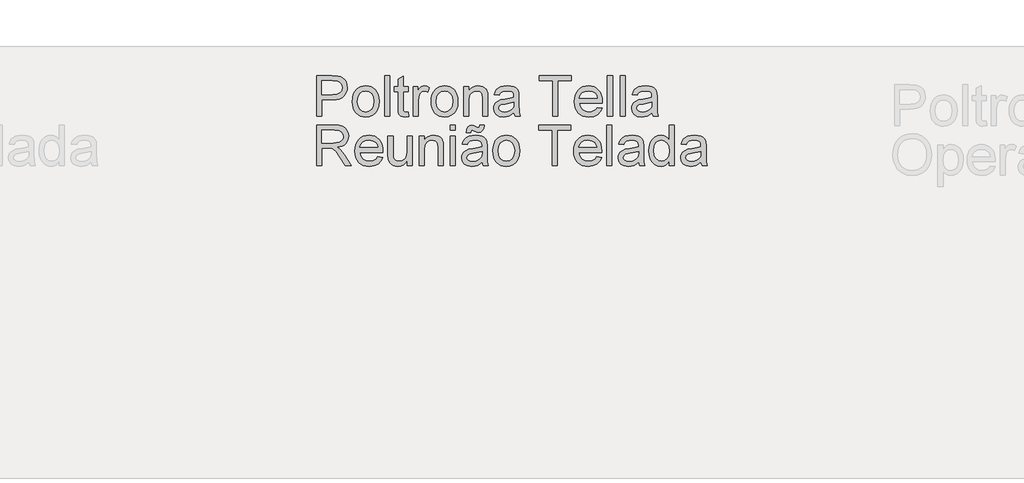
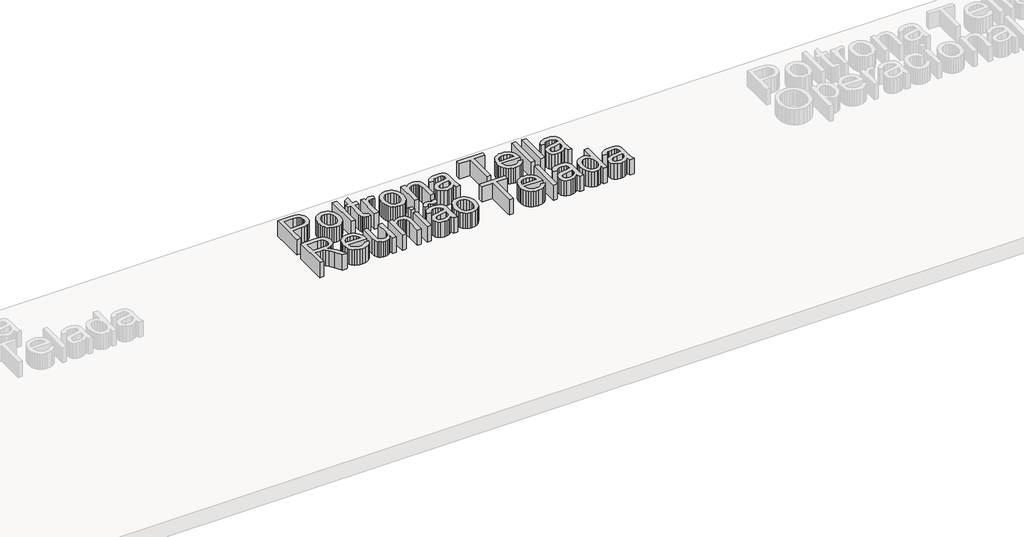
# One storey, part 3 of 5: 1 proxy.
"""IFC4 building model written with IfcOpenShell, lengths in millimetres."""

from ifc_helpers import new_model, si_unit, origin, origin_with_axes, place, context, project, spatial, polyline, outline, extrude, element, save

model = new_model("IFC4")

# Units and contexts
model_context = context("Model", 3, world=origin())
ifc_project = project(units=[si_unit("LENGTHUNIT", "METRE", prefix="MILLI")], contexts=[model_context])

# Site, building, storey
site = spatial("IfcSite", under=ifc_project)
building = spatial("IfcBuilding", under=site)
storey = spatial("IfcBuildingStorey", under=building, Name="Nível 1", Elevation=0.0)

# Proxy
placement = place(None, origin())
element("IfcBuildingElementProxy", 1, Name="300 mm", ObjectType="300 mm", at=placement, inside=storey, context=model_context, shape_type="SweptSolid", body=[
    extrude(outline(polyline([(6.5554391, 6303.2273262), (6.5554391, 6604.5962566), (118.2444128, 6604.5962566), (163.273169, 6601.7267771), (183.3503289, 6596.364897), (199.8774276, 6587.6368966), (213.1855587, 6575.1473029), (223.6058162, 6558.5006426), (230.3380568, 6538.8649411), (232.5821369, 6517.4082238), (231.066923, 6498.9083579), (226.5212811, 6481.8892171), (218.9452112, 6466.3508014), (208.3387134, 6452.2931106), (193.7774842, 6440.6404484), (174.33722, 6432.3171183), (150.0179209, 6427.3231202), (120.8195868, 6425.6584542), (44.2265554, 6425.6584542), (44.2265554, 6303.2273262), (6.5554391, 6303.2273262)]), holes=[polyline([(44.2265554, 6463.3295705), (123.0268788, 6463.3295705), (156.4305639, 6466.7876612), (178.5034836, 6477.1619335), (190.8091364, 6493.8085938), (194.9110206, 6516.0838486), (192.4921965, 6533.0064204), (185.2357241, 6547.2802418), (174.0429144, 6558.022396), (159.8150783, 6564.3499663), (122.143962, 6566.9251403), (44.2265554, 6566.9251403), (44.2265554, 6463.3295705)])]), origin_with_axes(), (0.0, 0.0, 1.0), 150.0),
    extrude(outline(polyline([(270.2532532, 6413.8862303), (272.2903998, 6442.5488363), (278.4018394, 6467.2475137), (288.5875722, 6487.9822627), (302.847598, 6504.7530831), (317.2041929, 6515.4722448), (333.0507098, 6523.1287888), (350.3871488, 6527.7227152), (369.2135099, 6529.254024), (389.9965434, 6527.3893221), (408.7884156, 6521.7952165), (425.5891264, 6512.4717072), (440.398676, 6499.4187942), (452.4858988, 6483.0779358), (461.1196294, 6463.8905905), (466.2998677, 6441.8567583), (468.0266138, 6416.9764391), (464.9731933, 6378.9190467), (455.8129316, 6349.9483396), (440.8125432, 6328.2524989), (420.2387427, 6312.0197058), (395.8021811, 6301.8937539), (369.2135099, 6298.5184366), (348.1269738, 6300.3762407), (329.1603577, 6305.9496529), (312.3136616, 6315.2386733), (297.5868855, 6328.2433018), (285.6284214, 6344.7428093), (277.0866613, 6364.5164666), (271.9616053, 6387.5642736), (270.2532532, 6413.8862303)]), holes=[polyline([(307.9243695, 6413.9598067), (312.2837712, 6379.8663428), (325.3619761, 6355.5769341), (345.0436629, 6341.0363982), (369.2135099, 6336.1895529), (393.2729924, 6341.0639894), (412.917891, 6355.6872987), (425.9960959, 6380.2986042), (430.3554975, 6415.1370291), (425.9685047, 6448.2372116), (412.8075264, 6472.1955265), (393.1350367, 6486.7360624), (369.2135099, 6491.5829077), (345.0436629, 6486.7544565), (325.3619761, 6472.2691029), (312.2837712, 6448.0348765), (307.9243695, 6413.9598067)])]), origin_with_axes(), (0.0, 0.0, 1.0), 150.0),
    extrude(outline(polyline([(510.4066197, 6303.2273262), (510.4066197, 6604.5962566), (548.077736, 6604.5962566), (548.077736, 6303.2273262), (510.4066197, 6303.2273262)])), origin_with_axes(), (0.0, 0.0, 1.0), 150.0),
    extrude(outline(polyline([(684.6355326, 6334.6444486), (689.3444221, 6302.1236802), (661.1646613, 6298.5184366), (643.0832612, 6300.0819351), (629.6003861, 6304.7724305), (620.0722424, 6312.0013117), (613.8550367, 6321.1799675), (610.4337342, 6336.943711), (609.2933, 6363.9278554), (609.2933, 6486.8740182), (581.0399628, 6486.8740182), (581.0399628, 6524.5451345), (609.2933, 6524.5451345), (609.2933, 6578.3294822), (646.9644163, 6600.4759783), (646.9644163, 6524.5451345), (684.6355326, 6524.5451345), (684.6355326, 6486.8740182), (646.9644163, 6486.8740182), (646.9644163, 6365.0315014), (648.9509791, 6345.607332), (655.388914, 6338.7279387), (668.2279956, 6336.1895529), (684.6355326, 6334.6444486)])), origin_with_axes(), (0.0, 0.0, 1.0), 150.0),
    extrude(outline(polyline([(722.3066489, 6303.2273262), (722.3066489, 6524.5451345), (755.2688757, 6524.5451345), (755.2688757, 6491.8036369), (767.4457697, 6510.7863478), (778.6661706, 6521.9699605), (789.9233596, 6527.4330081), (802.2106183, 6529.254024), (820.9726, 6526.3477562), (840.0288874, 6517.628953), (827.4473231, 6483.8573858), (814.2035713, 6489.6515272), (800.9598195, 6491.5829077), (789.7118275, 6489.7251036), (779.659452, 6484.1516914), (771.5384569, 6475.2857353), (766.0846063, 6463.5502997), (761.5044755, 6442.5074495), (759.9777652, 6419.551613), (759.9777652, 6303.2273262), (722.3066489, 6303.2273262)])), origin_with_axes(), (0.0, 0.0, 1.0), 150.0),
    extrude(outline(polyline([(854.155556, 6413.8862303), (856.1927025, 6442.5488363), (862.3041422, 6467.2475137), (872.4898749, 6487.9822627), (886.7499008, 6504.7530831), (901.1064956, 6515.4722448), (916.9530126, 6523.1287888), (934.2894516, 6527.7227152), (953.1158127, 6529.254024), (973.8988461, 6527.3893221), (992.6907183, 6521.7952165), (1009.4914292, 6512.4717072), (1024.3009787, 6499.4187942), (1036.3882016, 6483.0779358), (1045.0219321, 6463.8905905), (1050.2021705, 6441.8567583), (1051.9289166, 6416.9764391), (1048.875496, 6378.9190467), (1039.7152343, 6349.9483396), (1024.714846, 6328.2524989), (1004.1410454, 6312.0197058), (979.7044839, 6301.8937539), (953.1158127, 6298.5184366), (932.0292766, 6300.3762407), (913.0626605, 6305.9496529), (896.2159643, 6315.2386733), (881.4891882, 6328.2433018), (869.5307241, 6344.7428093), (860.988964, 6364.5164666), (855.863908, 6387.5642736), (854.155556, 6413.8862303)]), holes=[polyline([(891.8266723, 6413.9598067), (896.1860739, 6379.8663428), (909.2642789, 6355.5769341), (928.9459656, 6341.0363982), (953.1158127, 6336.1895529), (977.1752952, 6341.0639894), (996.8201937, 6355.6872987), (1009.8983986, 6380.2986042), (1014.2578003, 6415.1370291), (1009.8708075, 6448.2372116), (996.7098291, 6472.1955265), (977.0373394, 6486.7360624), (953.1158127, 6491.5829077), (928.9459656, 6486.7544565), (909.2642789, 6472.2691029), (896.1860739, 6448.0348765), (891.8266723, 6413.9598067)])]), origin_with_axes(), (0.0, 0.0, 1.0), 150.0),
    extrude(outline(polyline([(1094.3089224, 6303.2273262), (1094.3089224, 6524.5451345), (1131.9800387, 6524.5451345), (1131.9800387, 6493.6430469), (1145.0674407, 6509.2228494), (1160.785199, 6520.3512797), (1179.1333135, 6527.0283379), (1200.1117842, 6529.254024), (1218.680628, 6527.4605993), (1235.6859732, 6522.0803251), (1249.8678241, 6513.7845861), (1259.9661849, 6503.2447669), (1271.2601621, 6475.5432527), (1273.2467249, 6439.1229352), (1273.2467249, 6303.2273262), (1235.5756086, 6303.2273262), (1235.5756086, 6434.0461636), (1231.234601, 6467.3762724), (1225.2289275, 6477.2998892), (1215.8939218, 6484.99782), (1203.9285599, 6489.9366358), (1190.0318176, 6491.5829077), (1167.9680949, 6487.8856936), (1149.1601279, 6476.7940515), (1141.6438389, 6467.7395559), (1136.275061, 6455.3649253), (1131.9800387, 6420.655259), (1131.9800387, 6303.2273262), (1094.3089224, 6303.2273262)])), origin_with_axes(), (0.0, 0.0, 1.0), 150.0),
    extrude(outline(polyline([(1466.311196, 6331.4806634), (1448.3125693, 6316.0480137), (1429.7805138, 6305.9496529), (1410.2919651, 6300.3762407), (1389.423859, 6298.5184366), (1357.9423572, 6302.9882029), (1334.7198063, 6316.3975016), (1320.3999996, 6336.75977), (1315.6267307, 6362.0884454), (1317.4293525, 6377.7050361), (1322.8372178, 6391.886887), (1331.1789421, 6404.0269928), (1341.7831406, 6413.5183483), (1368.1602796, 6425.8791834), (1400.7546244, 6431.5445661), (1439.2718693, 6437.5042544), (1466.0904668, 6444.4940123), (1466.311196, 6452.8817218), (1463.7176279, 6469.693929), (1455.9369237, 6480.6936006), (1438.5361053, 6488.8605809), (1414.2926818, 6491.5829077), (1391.8518801, 6489.7710889), (1376.1801071, 6484.3356324), (1365.4931352, 6474.2832569), (1358.0067366, 6458.6206809), (1320.3356203, 6463.3295705), (1326.8747227, 6483.9309622), (1336.6327927, 6500.11777), (1350.520338, 6512.4969991), (1369.4478666, 6521.6756549), (1392.5968412, 6527.3594317), (1419.1487242, 6529.254024), (1444.6153553, 6527.5801609), (1464.8028798, 6522.5585717), (1480.0239973, 6515.0077937), (1490.5914076, 6505.7463645), (1497.5995596, 6494.2960374), (1502.1429023, 6480.1785658), (1503.9823123, 6447.2163391), (1503.9823123, 6400.3481729), (1505.8952986, 6334.9019659), (1513.4000913, 6303.2273262), (1475.728975, 6303.2273262), (1466.311196, 6331.4806634)]), holes=[polyline([(1466.311196, 6406.822896), (1405.5370904, 6395.2714014), (1373.1266866, 6389.1645602), (1358.448195, 6379.2317464), (1353.297847, 6364.7371958), (1356.1029472, 6353.535189), (1364.5182479, 6344.3565332), (1378.359808, 6338.231298), (1397.4436865, 6336.1895529), (1417.6771962, 6338.4428302), (1435.5562612, 6345.2026618), (1450.0508118, 6355.1630668), (1460.1307784, 6367.0180641), (1464.6005447, 6379.2317464), (1466.0904668, 6396.1543181), (1466.311196, 6406.822896)])]), origin_with_axes(), (0.0, 0.0, 1.0), 150.0),
    extrude(outline(polyline([(1753.5534578, 6303.2273262), (1753.5534578, 6566.9251403), (1654.6667775, 6566.9251403), (1654.6667775, 6604.5962566), (1890.1112544, 6604.5962566), (1890.1112544, 6566.9251403), (1791.2245741, 6566.9251403), (1791.2245741, 6303.2273262), (1753.5534578, 6303.2273262)])), origin_with_axes(), (0.0, 0.0, 1.0), 150.0),
    extrude(outline(polyline([(2082.7342671, 6369.1517797), (2119.6696194, 6364.4428902), (2106.3614882, 6336.6126172), (2085.1255, 6315.8088904), (2056.4399015, 6302.8410501), (2020.7829391, 6298.5184366), (1997.4086368, 6300.3831385), (1976.5819174, 6305.9772441), (1958.3027807, 6315.3007534), (1942.5712269, 6328.3536664), (1929.9206848, 6344.7726997), (1920.8845833, 6364.1945698), (1915.4629224, 6386.6192767), (1913.6557021, 6412.0468203), (1915.4813165, 6438.3365874), (1920.9581597, 6461.5085546), (1930.0862317, 6481.5627219), (1942.8655325, 6498.4990892), (1958.5556996, 6511.9543732), (1976.4163705, 6521.5652903), (1996.4475451, 6527.3318406), (2018.6492235, 6529.254024), (2040.1358313, 6527.3364391), (2059.5668984, 6521.5836844), (2076.9424249, 6511.9957599), (2092.2624107, 6498.5726656), (2104.7680993, 6481.6730864), (2113.700734, 6461.6557074), (2119.0603148, 6438.5205284), (2120.8468418, 6412.2675495), (2120.6261126, 6402.1140065), (1951.3268184, 6402.1140065), (1957.8475268, 6373.9158515), (1972.9950679, 6353.1857011), (1994.8564555, 6340.43859), (2021.5187031, 6336.1895529), (2041.5682718, 6338.1577216), (2058.4540554, 6344.0622276), (2072.1760538, 6354.270953), (2082.7342671, 6369.1517797)]), holes=[polyline([(1951.3268184, 6439.7851228), (2083.1757255, 6439.7851228), (2078.0805598, 6459.6875387), (2068.0925637, 6473.9245719), (2046.1300086, 6487.1683238), (2018.5020707, 6491.5829077), (1993.109016, 6488.0604376), (1972.1121511, 6477.4930273), (1957.516433, 6461.0211109), (1951.3268184, 6439.7851228)])]), origin_with_axes(), (0.0, 0.0, 1.0), 150.0),
    extrude(outline(polyline([(2158.5179581, 6303.2273262), (2158.5179581, 6604.5962566), (2196.1890744, 6604.5962566), (2196.1890744, 6303.2273262), (2158.5179581, 6303.2273262)])), origin_with_axes(), (0.0, 0.0, 1.0), 150.0),
    extrude(outline(polyline([(2252.6957488, 6303.2273262), (2252.6957488, 6604.5962566), (2290.3668651, 6604.5962566), (2290.3668651, 6303.2273262), (2252.6957488, 6303.2273262)])), origin_with_axes(), (0.0, 0.0, 1.0), 150.0),
    extrude(outline(polyline([(2488.1402258, 6331.4806634), (2470.1415991, 6316.0480137), (2451.6095436, 6305.9496529), (2432.1209949, 6300.3762407), (2411.2528888, 6298.5184366), (2379.771387, 6302.9882029), (2356.5488361, 6316.3975016), (2342.2290294, 6336.75977), (2337.4557605, 6362.0884454), (2339.2583823, 6377.7050361), (2344.6662476, 6391.886887), (2353.0079719, 6404.0269928), (2363.6121704, 6413.5183483), (2389.9893094, 6425.8791834), (2422.5836542, 6431.5445661), (2461.1008991, 6437.5042544), (2487.9194966, 6444.4940123), (2488.1402258, 6452.8817218), (2485.5466577, 6469.693929), (2477.7659535, 6480.6936006), (2460.3651351, 6488.8605809), (2436.1217116, 6491.5829077), (2413.6809099, 6489.7710889), (2398.0091369, 6484.3356324), (2387.322165, 6474.2832569), (2379.8357664, 6458.6206809), (2342.1646501, 6463.3295705), (2348.7037525, 6483.9309622), (2358.4618225, 6500.11777), (2372.3493678, 6512.4969991), (2391.2768964, 6521.6756549), (2414.425871, 6527.3594317), (2440.977754, 6529.254024), (2466.4443851, 6527.5801609), (2486.6319096, 6522.5585717), (2501.8530271, 6515.0077937), (2512.4204374, 6505.7463645), (2519.4285894, 6494.2960374), (2523.9719321, 6480.1785658), (2525.8113421, 6447.2163391), (2525.8113421, 6400.3481729), (2527.7243284, 6334.9019659), (2535.2291211, 6303.2273262), (2497.5580048, 6303.2273262), (2488.1402258, 6331.4806634)]), holes=[polyline([(2488.1402258, 6406.822896), (2427.3661202, 6395.2714014), (2394.9557164, 6389.1645602), (2380.2772248, 6379.2317464), (2375.1268768, 6364.7371958), (2377.9319771, 6353.535189), (2386.3472777, 6344.3565332), (2400.1888378, 6338.231298), (2419.2727163, 6336.1895529), (2439.506226, 6338.4428302), (2457.385291, 6345.2026618), (2471.8798416, 6355.1630668), (2481.9598082, 6367.0180641), (2486.4295745, 6379.2317464), (2487.9194966, 6396.1543181), (2488.1402258, 6406.822896)])]), origin_with_axes(), (0.0, 0.0, 1.0), 150.0),
    extrude(outline(polyline([(6.5554391, 5937.3028726), (6.5554391, 6238.6718031), (136.4177834, 6238.6718031), (171.3205877, 6236.6392551), (196.7136424, 6230.541611), (215.2732891, 6219.2844219), (229.6758692, 6201.773239), (238.9189043, 6180.0590042), (241.999916, 6156.1926598), (236.8955533, 6126.5045827), (221.5824653, 6101.8932773), (209.9826861, 6091.8638944), (195.6007994, 6083.8486654), (158.4907031, 6073.8606692), (179.9014352, 6057.7474378), (210.4356408, 6018.9726756), (260.6883214, 5937.3028726), (216.9103639, 5937.3028726), (177.6941432, 5999.7692354), (149.3672296, 6041.1191717), (129.4648137, 6060.6537056), (111.5489605, 6067.8274045), (89.69677, 6069.1517797), (44.2265554, 6069.1517797), (44.2265554, 5937.3028726), (6.5554391, 5937.3028726)]), holes=[polyline([(44.2265554, 6106.822896), (128.5451087, 6106.822896), (152.760941, 6108.1564682), (171.5505139, 6112.1571849), (185.6955766, 6119.0917605), (195.9778784, 6129.2269095), (202.2410694, 6141.486577), (204.3287997, 6154.7947082), (200.3464771, 6173.1704138), (188.3995093, 6187.9776641), (167.8441028, 6197.7449311), (138.0364642, 6201.0006868), (44.2265554, 6201.0006868), (44.2265554, 6106.822896)])]), origin_with_axes(), (0.0, 0.0, 1.0), 150.0),
    extrude(outline(polyline([(458.1673764, 6003.2273262), (495.1027287, 5998.5184366), (481.7945975, 5970.6881637), (460.5586093, 5949.8844369), (431.8730108, 5936.9165965), (396.2160484, 5932.5939831), (372.8417461, 5934.458685), (352.0150267, 5940.0527905), (333.73589, 5949.3762999), (318.0043362, 5962.4292129), (305.3537941, 5978.8482462), (296.3176926, 5998.2701163), (290.8960317, 6020.6948231), (289.0888114, 6046.1223668), (290.9144258, 6072.4121339), (296.391269, 6095.5841011), (305.519341, 6115.6382683), (318.2986418, 6132.5746357), (333.9888089, 6146.0299196), (351.8494798, 6155.6408368), (371.8806544, 6161.407387), (394.0823328, 6163.3295705), (415.5689406, 6161.4119856), (435.0000077, 6155.6592309), (452.3755342, 6146.0713064), (467.69552, 6132.6482121), (480.2012086, 6115.7486329), (489.1338433, 6095.7312539), (494.4934241, 6072.5960749), (496.2799511, 6046.343096), (496.0592219, 6036.1895529), (326.7599277, 6036.1895529), (333.2806361, 6007.991398), (348.4281772, 5987.2612476), (370.2895648, 5974.5141364), (396.9518124, 5970.2650994), (417.0013811, 5972.2332681), (433.8871647, 5978.1377741), (447.6091631, 5988.3464995), (458.1673764, 6003.2273262)]), holes=[polyline([(326.7599277, 6073.8606692), (458.6088348, 6073.8606692), (453.5136691, 6093.7630852), (443.525673, 6108.0001184), (421.5631179, 6121.2438702), (393.93518, 6125.6584542), (368.5421253, 6122.1359841), (347.5452604, 6111.5685737), (332.9495423, 6095.0966574), (326.7599277, 6073.8606692)])]), origin_with_axes(), (0.0, 0.0, 1.0), 150.0),
    extrude(outline(polyline([(675.2177535, 5937.3028726), (675.2177535, 5975.3418709), (661.5877256, 5956.63967), (645.7136175, 5943.280955), (627.5954293, 5935.2657261), (607.2331608, 5932.5939831), (588.8850463, 5934.4701813), (571.8061247, 5940.0987758), (557.477121, 5948.5600617), (547.3787602, 5958.9343339), (536.1583593, 5986.6726364), (533.9510674, 6021.6950023), (533.9510674, 6158.6206809), (571.6221837, 6158.6206809), (571.6221837, 6039.4269145), (573.9030521, 6001.0200342), (579.3936908, 5988.2085437), (588.8022729, 5978.4688679), (601.5033987, 5972.3160415), (616.8716691, 5970.2650994), (633.1228562, 5972.3620268), (648.3255797, 5978.6528089), (660.8611587, 5988.5580316), (669.1109124, 6001.4982808), (673.6910432, 6019.2209959), (675.2177535, 6043.4736164), (675.2177535, 6158.6206809), (712.8888698, 6158.6206809), (712.8888698, 5937.3028726), (675.2177535, 5937.3028726)])), origin_with_axes(), (0.0, 0.0, 1.0), 150.0),
    extrude(outline(polyline([(764.6866548, 5937.3028726), (764.6866548, 6158.6206809), (802.3577711, 6158.6206809), (802.3577711, 6127.7185933), (815.445173, 6143.2983958), (831.1629313, 6154.4268262), (849.5110458, 6161.1038844), (870.4895166, 6163.3295705), (889.0583603, 6161.5361457), (906.0637055, 6156.1558716), (920.2455564, 6147.8601326), (930.3439172, 6137.3203134), (941.6378944, 6109.6187992), (943.6244572, 6073.1984816), (943.6244572, 5937.3028726), (905.9533409, 5937.3028726), (905.9533409, 6068.1217101), (901.6123334, 6101.4518189), (895.6066598, 6111.3754357), (886.2716542, 6119.0733664), (874.3062923, 6124.0121822), (860.4095499, 6125.6584542), (838.3458272, 6121.9612401), (819.5378602, 6110.869598), (812.0215712, 6101.8151023), (806.6527934, 6089.4404717), (802.3577711, 6054.7308055), (802.3577711, 5937.3028726), (764.6866548, 5937.3028726)])), origin_with_axes(), (0.0, 0.0, 1.0), 150.0),
    extrude(outline(polyline([(995.4222421, 6201.0006868), (995.4222421, 6238.6718031), (1033.0933584, 6238.6718031), (1033.0933584, 6201.0006868), (995.4222421, 6201.0006868)])), origin_with_axes(), (0.0, 0.0, 1.0), 150.0),
    extrude(outline(polyline([(995.4222421, 5937.3028726), (995.4222421, 6158.6206809), (1033.0933584, 6158.6206809), (1033.0933584, 5937.3028726), (995.4222421, 5937.3028726)])), origin_with_axes(), (0.0, 0.0, 1.0), 150.0),
    extrude(outline(polyline([(1113.1444806, 6182.1651286), (1115.995566, 6205.3233002), (1124.843128, 6223.2943357), (1138.1788504, 6234.8274362), (1154.7887224, 6238.6718031), (1168.6946619, 6235.6367766), (1184.955046, 6226.5316972), (1200.1853606, 6219.8362449), (1208.1683999, 6223.6254295), (1212.0311609, 6238.6718031), (1244.9933877, 6238.6718031), (1241.7100408, 6213.950133), (1233.0372228, 6196.2917972), (1220.1337618, 6185.6967958), (1204.1584862, 6182.1651286), (1190.1605763, 6185.0346082), (1174.3600446, 6193.6430469), (1158.4675424, 6201.0006868), (1149.4912217, 6196.2182208), (1146.1067074, 6182.1651286), (1113.1444806, 6182.1651286)])), origin_with_axes(), (0.0, 0.0, 1.0), 150.0),
    extrude(outline(polyline([(1230.866719, 5965.5562099), (1212.8680924, 5950.1235602), (1194.3360369, 5940.0251994), (1174.8474882, 5934.4517872), (1153.979382, 5932.5939831), (1122.4978803, 5937.0637493), (1099.2753294, 5950.4730481), (1084.9555227, 5970.8353165), (1080.1822538, 5996.1639919), (1081.9848756, 6011.7805826), (1087.3927409, 6025.9624335), (1095.7344652, 6038.1025393), (1106.3386637, 6047.5938948), (1132.7158027, 6059.9547298), (1165.3101475, 6065.6201125), (1203.8273924, 6071.5798009), (1230.6459898, 6078.5695588), (1230.866719, 6086.9572683), (1228.273151, 6103.7694754), (1220.4924468, 6114.7691471), (1203.0916284, 6122.9361274), (1178.8482049, 6125.6584542), (1156.4074032, 6123.8466353), (1140.7356302, 6118.4111789), (1130.0486583, 6108.3588033), (1122.5622597, 6092.6962274), (1084.8911434, 6097.4051169), (1091.4302458, 6118.0065087), (1101.1883157, 6134.1933164), (1115.0758611, 6146.5725456), (1134.0033897, 6155.7512014), (1157.1523643, 6161.4349782), (1183.7042473, 6163.3295705), (1209.1708784, 6161.6557074), (1229.3584029, 6156.6341182), (1244.5795204, 6149.0833402), (1255.1469307, 6139.821911), (1262.1550827, 6128.3715839), (1266.6984254, 6114.2541123), (1268.5378353, 6081.2918855), (1268.5378353, 6034.4237194), (1270.4508217, 5968.9775124), (1277.9556144, 5937.3028726), (1240.2844981, 5937.3028726), (1230.866719, 5965.5562099)]), holes=[polyline([(1230.866719, 6040.8984425), (1170.0926134, 6029.3469478), (1137.6822097, 6023.2401067), (1123.0037181, 6013.3072928), (1117.8533701, 5998.8127422), (1120.6584703, 5987.6107355), (1129.073771, 5978.4320797), (1142.915331, 5972.3068445), (1161.9992095, 5970.2650994), (1182.2327193, 5972.5183766), (1200.1117842, 5979.2782083), (1214.6063349, 5989.2386133), (1224.6863015, 6001.0936106), (1229.1560678, 6013.3072928), (1230.6459898, 6030.2298646), (1230.866719, 6040.8984425)])]), origin_with_axes(), (0.0, 0.0, 1.0), 150.0),
    extrude(outline(polyline([(1310.9178412, 6047.9617768), (1312.9549877, 6076.6243827), (1319.0664274, 6101.3230602), (1329.2521601, 6122.0578091), (1343.512186, 6138.8286296), (1357.8687808, 6149.5477912), (1373.7152978, 6157.2043352), (1391.0517368, 6161.7982617), (1409.8780979, 6163.3295705), (1430.6611314, 6161.4648686), (1449.4530035, 6155.870763), (1466.2537144, 6146.5472537), (1481.063264, 6133.4943407), (1493.1504868, 6117.1534823), (1501.7842173, 6097.966137), (1506.9644557, 6075.9323047), (1508.6912018, 6051.0519855), (1505.6377812, 6012.9945931), (1496.4775196, 5984.023886), (1481.4771312, 5962.3280453), (1460.9033306, 5946.0952523), (1436.4667691, 5935.9693004), (1409.8780979, 5932.5939831), (1388.7915618, 5934.4517872), (1369.8249457, 5940.0251994), (1352.9782496, 5949.3142198), (1338.2514734, 5962.3188483), (1326.2930093, 5978.8183558), (1317.7512493, 5998.592013), (1312.6261932, 6021.63982), (1310.9178412, 6047.9617768)]), holes=[polyline([(1348.5889575, 6048.0353532), (1352.9483591, 6013.9418893), (1366.0265641, 5989.6524805), (1385.7082508, 5975.1119447), (1409.8780979, 5970.2650994), (1433.9375804, 5975.1395358), (1453.5824789, 5989.7628451), (1466.6606838, 6014.3741506), (1471.0200855, 6049.2125756), (1466.6330927, 6082.3127581), (1453.4721143, 6106.271073), (1433.7996246, 6120.8116089), (1409.8780979, 6125.6584542), (1385.7082508, 6120.830003), (1366.0265641, 6106.3446494), (1352.9483591, 6082.110423), (1348.5889575, 6048.0353532)])]), origin_with_axes(), (0.0, 0.0, 1.0), 150.0),
    extrude(outline(polyline([(1748.8445682, 5937.3028726), (1748.8445682, 6201.0006868), (1649.9578879, 6201.0006868), (1649.9578879, 6238.6718031), (1885.4023649, 6238.6718031), (1885.4023649, 6201.0006868), (1786.5156846, 6201.0006868), (1786.5156846, 5937.3028726), (1748.8445682, 5937.3028726)])), origin_with_axes(), (0.0, 0.0, 1.0), 150.0),
    extrude(outline(polyline([(2078.0253775, 6003.2273262), (2114.9607298, 5998.5184366), (2101.6525987, 5970.6881637), (2080.4166105, 5949.8844369), (2051.7310119, 5936.9165965), (2016.0740495, 5932.5939831), (1992.6997473, 5934.458685), (1971.8730278, 5940.0527905), (1953.5938912, 5949.3762999), (1937.8623374, 5962.4292129), (1925.2117953, 5978.8482462), (1916.1756938, 5998.2701163), (1910.7540329, 6020.6948231), (1908.9468126, 6046.1223668), (1910.772427, 6072.4121339), (1916.2492702, 6095.5841011), (1925.3773422, 6115.6382683), (1938.156643, 6132.5746357), (1953.8468101, 6146.0299196), (1971.7074809, 6155.6408368), (1991.7386556, 6161.407387), (2013.940334, 6163.3295705), (2035.4269418, 6161.4119856), (2054.8580089, 6155.6592309), (2072.2335354, 6146.0713064), (2087.5535212, 6132.6482121), (2100.0592098, 6115.7486329), (2108.9918445, 6095.7312539), (2114.3514253, 6072.5960749), (2116.1379522, 6046.343096), (2115.917223, 6036.1895529), (1946.6179289, 6036.1895529), (1953.1386372, 6007.991398), (1968.2861784, 5987.2612476), (1990.1475659, 5974.5141364), (2016.8098135, 5970.2650994), (2036.8593823, 5972.2332681), (2053.7451659, 5978.1377741), (2067.4671643, 5988.3464995), (2078.0253775, 6003.2273262)]), holes=[polyline([(1946.6179289, 6073.8606692), (2078.4668359, 6073.8606692), (2073.3716703, 6093.7630852), (2063.3836741, 6108.0001184), (2041.421119, 6121.2438702), (2013.7931812, 6125.6584542), (1988.4001265, 6122.1359841), (1967.4032616, 6111.5685737), (1952.8075434, 6095.0966574), (1946.6179289, 6073.8606692)])]), origin_with_axes(), (0.0, 0.0, 1.0), 150.0),
    extrude(outline(polyline([(2153.8090685, 5937.3028726), (2153.8090685, 6238.6718031), (2191.4801848, 6238.6718031), (2191.4801848, 5937.3028726), (2153.8090685, 5937.3028726)])), origin_with_axes(), (0.0, 0.0, 1.0), 150.0),
    extrude(outline(polyline([(2389.2535455, 5965.5562099), (2371.2549188, 5950.1235602), (2352.7228633, 5940.0251994), (2333.2343146, 5934.4517872), (2312.3662085, 5932.5939831), (2280.8847067, 5937.0637493), (2257.6621558, 5950.4730481), (2243.3423491, 5970.8353165), (2238.5690802, 5996.1639919), (2240.371702, 6011.7805826), (2245.7795673, 6025.9624335), (2254.1212916, 6038.1025393), (2264.7254901, 6047.5938948), (2291.1026291, 6059.9547298), (2323.6969739, 6065.6201125), (2362.2142188, 6071.5798009), (2389.0328163, 6078.5695588), (2389.2535455, 6086.9572683), (2386.6599774, 6103.7694754), (2378.8792732, 6114.7691471), (2361.4784548, 6122.9361274), (2337.2350313, 6125.6584542), (2314.7942296, 6123.8466353), (2299.1224566, 6118.4111789), (2288.4354847, 6108.3588033), (2280.9490861, 6092.6962274), (2243.2779698, 6097.4051169), (2249.8170722, 6118.0065087), (2259.5751422, 6134.1933164), (2273.4626875, 6146.5725456), (2292.3902161, 6155.7512014), (2315.5391907, 6161.4349782), (2342.0910737, 6163.3295705), (2367.5577048, 6161.6557074), (2387.7452293, 6156.6341182), (2402.9663468, 6149.0833402), (2413.5337571, 6139.821911), (2420.5419091, 6128.3715839), (2425.0852518, 6114.2541123), (2426.9246618, 6081.2918855), (2426.9246618, 6034.4237194), (2428.8376481, 5968.9775124), (2436.3424408, 5937.3028726), (2398.6713245, 5937.3028726), (2389.2535455, 5965.5562099)]), holes=[polyline([(2389.2535455, 6040.8984425), (2328.4794399, 6029.3469478), (2296.0690361, 6023.2401067), (2281.3905445, 6013.3072928), (2276.2401965, 5998.8127422), (2279.0452967, 5987.6107355), (2287.4605974, 5978.4320797), (2301.3021575, 5972.3068445), (2320.386036, 5970.2650994), (2340.6195457, 5972.5183766), (2358.4986107, 5979.2782083), (2372.9931613, 5989.2386133), (2383.0731279, 6001.0936106), (2387.5428942, 6013.3072928), (2389.0328163, 6030.2298646), (2389.2535455, 6040.8984425)])]), origin_with_axes(), (0.0, 0.0, 1.0), 150.0),
    extrude(outline(polyline([(2615.2802433, 5937.3028726), (2615.2802433, 5972.8402734), (2604.0092587, 5955.2325214), (2590.3562381, 5942.6555557), (2574.3211817, 5935.1093762), (2555.9040893, 5932.5939831), (2531.5503012, 5936.2360148), (2509.2566523, 5947.1621101), (2490.3843059, 5964.6089137), (2476.2944255, 5987.8130706), (2467.5204399, 6015.8364815), (2464.5957781, 6047.7410476), (2467.2905137, 6079.2501405), (2475.3747205, 6107.7058128), (2488.8392015, 6131.4893838), (2507.6747597, 6148.9821727), (2530.4558523, 6159.742721), (2555.7569365, 6163.3295705), (2574.1878244, 6160.7635935), (2590.4849968, 6153.0656628), (2604.2989657, 6141.2658478), (2615.2802433, 6126.3942181), (2615.2802433, 6238.6718031), (2652.9513596, 6238.6718031), (2652.9513596, 5937.3028726), (2615.2802433, 5937.3028726)]), holes=[polyline([(2502.2668944, 6047.8882004), (2506.5159314, 6013.8131306), (2519.2630425, 5989.5789041), (2537.785901, 5975.0935506), (2559.36218, 5970.2650994), (2580.929262, 5974.8728214), (2598.9830709, 5988.6959874), (2611.2059502, 6011.9921147), (2615.2802433, 6045.0187208), (2611.1323738, 6081.1263386), (2598.6887653, 6106.1607084), (2580.1751039, 6120.7840177), (2557.8170756, 6125.6584542), (2536.0200674, 6120.9771558), (2518.1593966, 6106.9332606), (2506.2400199, 6082.8093988), (2502.2668944, 6047.8882004)])]), origin_with_axes(), (0.0, 0.0, 1.0), 150.0),
    extrude(outline(polyline([(2850.7247202, 5965.5562099), (2832.7260936, 5950.1235602), (2814.1940381, 5940.0251994), (2794.7054894, 5934.4517872), (2773.8373832, 5932.5939831), (2742.3558815, 5937.0637493), (2719.1333305, 5950.4730481), (2704.8135239, 5970.8353165), (2700.040255, 5996.1639919), (2701.8428768, 6011.7805826), (2707.2507421, 6025.9624335), (2715.5924663, 6038.1025393), (2726.1966648, 6047.5938948), (2752.5738039, 6059.9547298), (2785.1681487, 6065.6201125), (2823.6853936, 6071.5798009), (2850.503991, 6078.5695588), (2850.7247202, 6086.9572683), (2848.1311521, 6103.7694754), (2840.3504479, 6114.7691471), (2822.9496296, 6122.9361274), (2798.7062061, 6125.6584542), (2776.2654044, 6123.8466353), (2760.5936314, 6118.4111789), (2749.9066594, 6108.3588033), (2742.4202608, 6092.6962274), (2704.7491445, 6097.4051169), (2711.288247, 6118.0065087), (2721.0463169, 6134.1933164), (2734.9338622, 6146.5725456), (2753.8613909, 6155.7512014), (2777.0103654, 6161.4349782), (2803.5622484, 6163.3295705), (2829.0288795, 6161.6557074), (2849.216404, 6156.6341182), (2864.4375216, 6149.0833402), (2875.0049319, 6139.821911), (2882.0130839, 6128.3715839), (2886.5564265, 6114.2541123), (2888.3958365, 6081.2918855), (2888.3958365, 6034.4237194), (2890.3088229, 5968.9775124), (2897.8136156, 5937.3028726), (2860.1424993, 5937.3028726), (2850.7247202, 5965.5562099)]), holes=[polyline([(2850.7247202, 6040.8984425), (2789.9506146, 6029.3469478), (2757.5402108, 6023.2401067), (2742.8617192, 6013.3072928), (2737.7113713, 5998.8127422), (2740.5164715, 5987.6107355), (2748.9317721, 5978.4320797), (2762.7733322, 5972.3068445), (2781.8572107, 5970.2650994), (2802.0907204, 5972.5183766), (2819.9697854, 5979.2782083), (2834.464336, 5989.2386133), (2844.5443027, 6001.0936106), (2849.0140689, 6013.3072928), (2850.503991, 6030.2298646), (2850.7247202, 6040.8984425)])]), origin_with_axes(), (0.0, 0.0, 1.0), 150.0),
])

save(model, "model.ifc")
